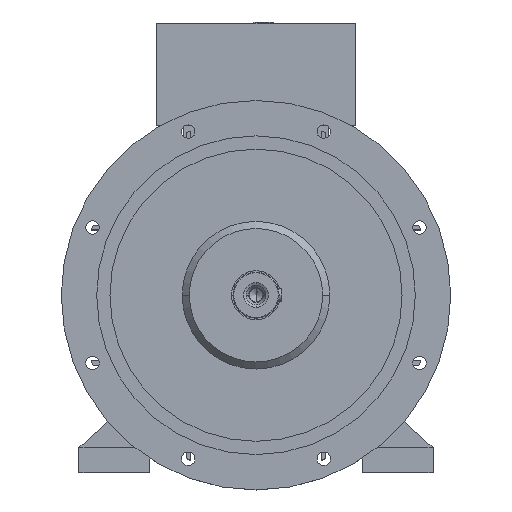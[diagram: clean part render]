
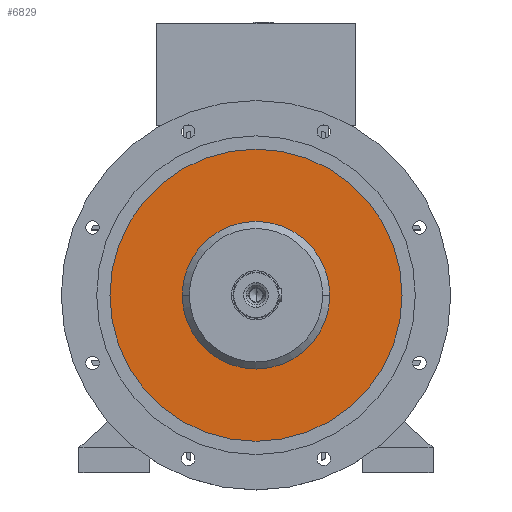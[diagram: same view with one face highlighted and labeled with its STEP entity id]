
A CAD part, top view. The second image highlights one B-rep face of the part: STEP entity #6829.
In plain terms, the highlighted planar face has unit normal (0, 0, 1).
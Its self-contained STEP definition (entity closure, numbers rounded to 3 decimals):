
#226 = AXIS2_PLACEMENT_3D ( 'NONE', #22571, #10109, #4274 ) ;
#315 = CARTESIAN_POINT ( 'NONE',  ( 206.25, 0., 330.5 ) ) ;
#1177 = PLANE ( 'NONE',  #2593 ) ;
#1694 = CARTESIAN_POINT ( 'NONE',  ( 0., 0., 330.5 ) ) ;
#1808 = CIRCLE ( 'NONE', #226, 104.2 ) ;
#2019 = CARTESIAN_POINT ( 'NONE',  ( 104.2, 0., 330.5 ) ) ;
#2104 = EDGE_LOOP ( 'NONE', ( #16246, #23174 ) ) ;
#2593 = AXIS2_PLACEMENT_3D ( 'NONE', #19900, #25891, #23564 ) ;
#3451 = EDGE_CURVE ( 'NONE', #6899, #4741, #23891, .T. ) ;
#3903 = DIRECTION ( 'NONE',  ( 0., 0., -1. ) ) ;
#4274 = DIRECTION ( 'NONE',  ( -1., 0., 0. ) ) ;
#4741 = VERTEX_POINT ( 'NONE', #315 ) ;
#5564 = CARTESIAN_POINT ( 'NONE',  ( -206.25, 0., 330.5 ) ) ;
#5651 = EDGE_CURVE ( 'NONE', #4741, #6899, #16918, .T. ) ;
#6829 = ADVANCED_FACE ( 'NONE', ( #21704, #17184 ), #1177, .T. ) ;
#6899 = VERTEX_POINT ( 'NONE', #5564 ) ;
#7120 = EDGE_CURVE ( 'NONE', #12544, #26320, #1808, .T. ) ;
#7352 = AXIS2_PLACEMENT_3D ( 'NONE', #1694, #7594, #21950 ) ;
#7594 = DIRECTION ( 'NONE',  ( 0., 0., 1. ) ) ;
#10109 = DIRECTION ( 'NONE',  ( 0., 0., -1. ) ) ;
#12544 = VERTEX_POINT ( 'NONE', #2019 ) ;
#12710 = DIRECTION ( 'NONE',  ( -1., 0., 0. ) ) ;
#12808 = DIRECTION ( 'NONE',  ( 0., 0., 1. ) ) ;
#13944 = CARTESIAN_POINT ( 'NONE',  ( 0., 0., 330.5 ) ) ;
#14337 = ORIENTED_EDGE ( 'NONE', *, *, #7120, .T. ) ;
#14505 = EDGE_LOOP ( 'NONE', ( #15596, #14337 ) ) ;
#15596 = ORIENTED_EDGE ( 'NONE', *, *, #17179, .T. ) ;
#16246 = ORIENTED_EDGE ( 'NONE', *, *, #3451, .T. ) ;
#16918 = CIRCLE ( 'NONE', #21129, 206.25 ) ;
#17179 = EDGE_CURVE ( 'NONE', #26320, #12544, #20656, .T. ) ;
#17184 = FACE_BOUND ( 'NONE', #14505, .T. ) ;
#18355 = AXIS2_PLACEMENT_3D ( 'NONE', #13944, #3903, #22376 ) ;
#18627 = CARTESIAN_POINT ( 'NONE',  ( 0., 0., 330.5 ) ) ;
#19900 = CARTESIAN_POINT ( 'NONE',  ( 0., 206.25, 330.5 ) ) ;
#20269 = CARTESIAN_POINT ( 'NONE',  ( -104.2, 0., 330.5 ) ) ;
#20656 = CIRCLE ( 'NONE', #18355, 104.2 ) ;
#21129 = AXIS2_PLACEMENT_3D ( 'NONE', #18627, #12808, #12710 ) ;
#21704 = FACE_OUTER_BOUND ( 'NONE', #2104, .T. ) ;
#21950 = DIRECTION ( 'NONE',  ( -1., 0., 0. ) ) ;
#22376 = DIRECTION ( 'NONE',  ( -1., 0., 0. ) ) ;
#22571 = CARTESIAN_POINT ( 'NONE',  ( 0., 0., 330.5 ) ) ;
#23174 = ORIENTED_EDGE ( 'NONE', *, *, #5651, .T. ) ;
#23564 = DIRECTION ( 'NONE',  ( 1., 0., 0. ) ) ;
#23891 = CIRCLE ( 'NONE', #7352, 206.25 ) ;
#25891 = DIRECTION ( 'NONE',  ( 0., 0., 1. ) ) ;
#26320 = VERTEX_POINT ( 'NONE', #20269 ) ;
